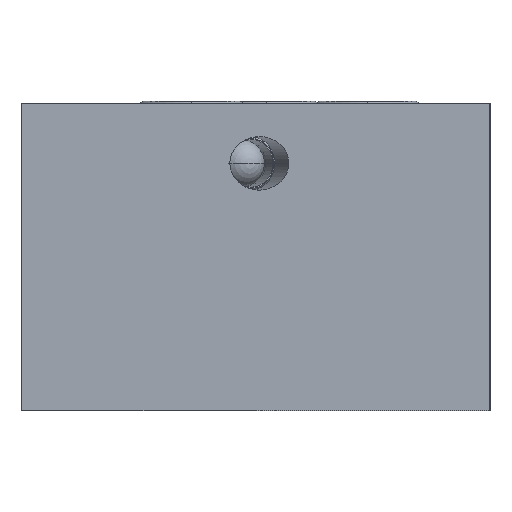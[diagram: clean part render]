
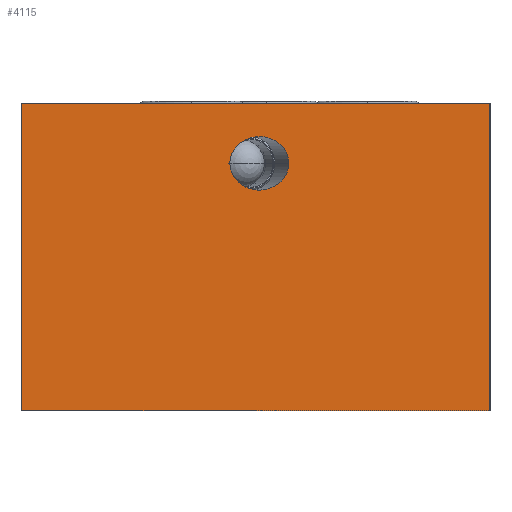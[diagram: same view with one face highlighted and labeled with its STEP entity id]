
A CAD part, left-side view. The second image highlights one B-rep face of the part: STEP entity #4115.
In plain terms, the highlighted planar face has unit normal (-1, 0, 0).
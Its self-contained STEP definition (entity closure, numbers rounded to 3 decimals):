
#219=DIRECTION('',(0.,-1.,0.));
#220=VECTOR('',#219,70.);
#221=CARTESIAN_POINT('',(-49.,35.,0.));
#222=LINE('',#221,#220);
#391=DIRECTION('',(0.,0.,-1.));
#392=VECTOR('',#391,46.);
#393=CARTESIAN_POINT('',(-49.,35.,0.));
#394=LINE('',#393,#392);
#398=CARTESIAN_POINT('',(-49.,3.914,-9.));
#399=CARTESIAN_POINT('',(-49.,3.914,-9.236));
#400=CARTESIAN_POINT('',(-49.,3.867,-9.725));
#401=CARTESIAN_POINT('',(-49.,3.633,-10.477));
#402=CARTESIAN_POINT('',(-49.,3.222,-11.202));
#403=CARTESIAN_POINT('',(-49.,2.643,-11.849));
#404=CARTESIAN_POINT('',(-49.,1.929,-12.373));
#405=CARTESIAN_POINT('',(-49.,1.263,-12.684));
#406=CARTESIAN_POINT('',(-49.,0.715,-12.852));
#407=CARTESIAN_POINT('',(-49.,0.302,-12.939));
#408=CARTESIAN_POINT('',(-49.,-0.037,-12.981));
#409=CARTESIAN_POINT('',(-49.,-0.304,-12.997));
#410=CARTESIAN_POINT('',(-49.,-0.5,-13.001));
#411=CARTESIAN_POINT('',(-49.,-0.696,-12.997));
#412=CARTESIAN_POINT('',(-49.,-0.963,-12.981));
#413=CARTESIAN_POINT('',(-49.,-1.302,-12.939));
#414=CARTESIAN_POINT('',(-49.,-1.715,-12.852));
#415=CARTESIAN_POINT('',(-49.,-2.263,-12.684));
#416=CARTESIAN_POINT('',(-49.,-2.929,-12.373));
#417=CARTESIAN_POINT('',(-49.,-3.643,-11.849));
#418=CARTESIAN_POINT('',(-49.,-4.222,-11.202));
#419=CARTESIAN_POINT('',(-49.,-4.633,-10.477));
#420=CARTESIAN_POINT('',(-49.,-4.867,-9.725));
#421=CARTESIAN_POINT('',(-49.,-4.914,-9.236));
#422=CARTESIAN_POINT('',(-49.,-4.914,-9.));
#427=CARTESIAN_POINT('',(-49.,-4.914,-9.));
#428=CARTESIAN_POINT('',(-49.,-4.914,-8.764));
#429=CARTESIAN_POINT('',(-49.,-4.867,-8.275));
#430=CARTESIAN_POINT('',(-49.,-4.633,-7.523));
#431=CARTESIAN_POINT('',(-49.,-4.222,-6.798));
#432=CARTESIAN_POINT('',(-49.,-3.643,-6.151));
#433=CARTESIAN_POINT('',(-49.,-2.929,-5.627));
#434=CARTESIAN_POINT('',(-49.,-2.263,-5.316));
#435=CARTESIAN_POINT('',(-49.,-1.715,-5.148));
#436=CARTESIAN_POINT('',(-49.,-1.302,-5.061));
#437=CARTESIAN_POINT('',(-49.,-0.963,-5.019));
#438=CARTESIAN_POINT('',(-49.,-0.696,-5.003));
#439=CARTESIAN_POINT('',(-49.,-0.5,-4.999));
#440=CARTESIAN_POINT('',(-49.,-0.304,-5.003));
#441=CARTESIAN_POINT('',(-49.,-0.037,-5.019));
#442=CARTESIAN_POINT('',(-49.,0.302,-5.061));
#443=CARTESIAN_POINT('',(-49.,0.715,-5.148));
#444=CARTESIAN_POINT('',(-49.,1.263,-5.316));
#445=CARTESIAN_POINT('',(-49.,1.929,-5.627));
#446=CARTESIAN_POINT('',(-49.,2.643,-6.151));
#447=CARTESIAN_POINT('',(-49.,3.222,-6.798));
#448=CARTESIAN_POINT('',(-49.,3.633,-7.523));
#449=CARTESIAN_POINT('',(-49.,3.867,-8.275));
#450=CARTESIAN_POINT('',(-49.,3.914,-8.764));
#451=CARTESIAN_POINT('',(-49.,3.914,-9.));
#456=DIRECTION('',(0.,0.,-1.));
#457=VECTOR('',#456,46.);
#458=CARTESIAN_POINT('',(-49.,-35.,0.));
#459=LINE('',#458,#457);
#535=DIRECTION('',(0.,-1.,0.));
#536=VECTOR('',#535,70.);
#537=CARTESIAN_POINT('',(-49.,35.,-46.));
#538=LINE('',#537,#536);
#3700=CARTESIAN_POINT('',(-49.,35.,0.));
#3701=CARTESIAN_POINT('',(-49.,-35.,0.));
#3702=VERTEX_POINT('',#3700);
#3703=VERTEX_POINT('',#3701);
#3708=CARTESIAN_POINT('',(-49.,35.,-46.));
#3709=CARTESIAN_POINT('',(-49.,-35.,-46.));
#3710=VERTEX_POINT('',#3708);
#3711=VERTEX_POINT('',#3709);
#3847=VERTEX_POINT('',#398);
#3848=VERTEX_POINT('',#422);
#4095=CARTESIAN_POINT('',(-49.,35.,0.));
#4096=DIRECTION('',(-1.,0.,0.));
#4097=DIRECTION('',(0.,-1.,0.));
#4098=AXIS2_PLACEMENT_3D('',#4095,#4096,#4097);
#4099=PLANE('',#4098);
#4100=ORIENTED_EDGE('',*,*,#4023,.T.);
#4102=ORIENTED_EDGE('',*,*,#4101,.T.);
#4104=ORIENTED_EDGE('',*,*,#4103,.F.);
#4106=ORIENTED_EDGE('',*,*,#4105,.F.);
#4107=EDGE_LOOP('',(#4100,#4102,#4104,#4106));
#4108=FACE_OUTER_BOUND('',#4107,.F.);
#4110=ORIENTED_EDGE('',*,*,#4109,.T.);
#4112=ORIENTED_EDGE('',*,*,#4111,.T.);
#4113=EDGE_LOOP('',(#4110,#4112));
#4114=FACE_BOUND('',#4113,.F.);
#423=B_SPLINE_CURVE_WITH_KNOTS('',3,(#398,#399,#400,#401,#402,#403,#404,#405,
#406,#407,#408,#409,#410,#411,#412,#413,#414,#415,#416,#417,#418,#419,#420,#421,
#422),.UNSPECIFIED.,.F.,.F.,(4,1,1,1,1,1,1,1,1,1,1,1,1,1,1,1,1,1,1,1,1,1,4),(
0.,0.063,0.125,0.188,0.25,0.313,0.375,0.406,0.438,
0.469,0.484,0.5,0.516,0.531,0.563,0.594,0.625,
0.688,0.75,0.813,0.875,0.938,1.),.UNSPECIFIED.);
#452=B_SPLINE_CURVE_WITH_KNOTS('',3,(#427,#428,#429,#430,#431,#432,#433,#434,
#435,#436,#437,#438,#439,#440,#441,#442,#443,#444,#445,#446,#447,#448,#449,#450,
#451),.UNSPECIFIED.,.F.,.F.,(4,1,1,1,1,1,1,1,1,1,1,1,1,1,1,1,1,1,1,1,1,1,4),(
0.,0.063,0.125,0.188,0.25,0.313,0.375,0.406,0.438,
0.469,0.484,0.5,0.516,0.531,0.563,0.594,0.625,
0.688,0.75,0.813,0.875,0.938,1.),.UNSPECIFIED.);
#4023=EDGE_CURVE('',#3702,#3703,#222,.T.);
#4101=EDGE_CURVE('',#3703,#3711,#459,.T.);
#4103=EDGE_CURVE('',#3710,#3711,#538,.T.);
#4105=EDGE_CURVE('',#3702,#3710,#394,.T.);
#4109=EDGE_CURVE('',#3847,#3848,#423,.T.);
#4111=EDGE_CURVE('',#3848,#3847,#452,.T.);
#4115=ADVANCED_FACE('',(#4108,#4114),#4099,.T.);
